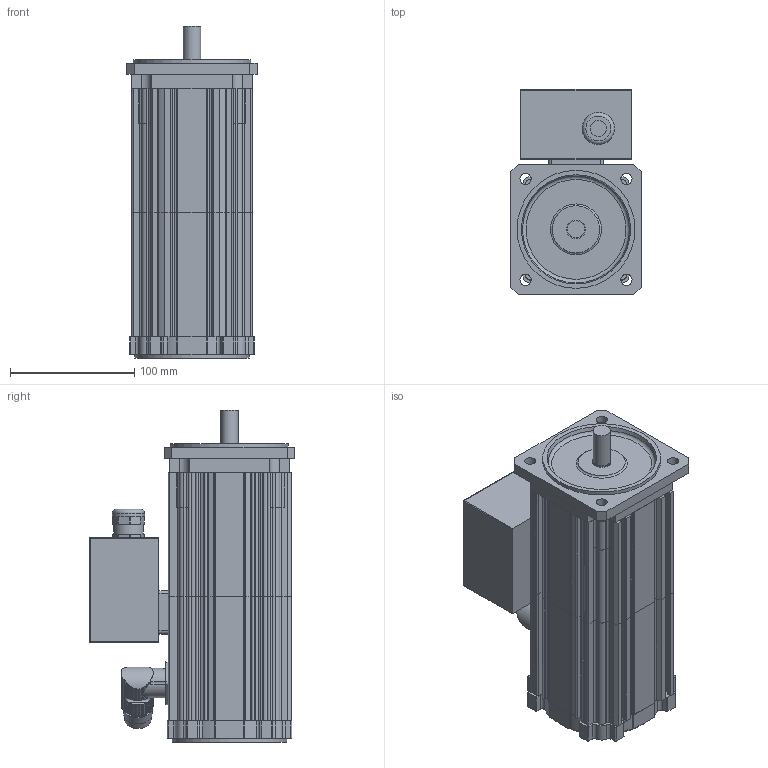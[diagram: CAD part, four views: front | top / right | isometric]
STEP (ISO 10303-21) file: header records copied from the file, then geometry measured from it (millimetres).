
FILE_DESCRIPTION(/* description */ (''),/* implementation_level */ '2;1');
FILE_NAME(/* name */ 'KSA446_Ix',/* time_stamp */ '2009-02-26T13:48:22+01:00',/* author */ (''),/* organization */ (''),/* preprocessor_version */ 'ST-DEVELOPER v8',/* originating_system */ 'UNIGRAPHICS SOLUTIONS - UNIGRAPHICS 18.0',/* authorisation */ '');
FILE_SCHEMA (('AUTOMOTIVE_DESIGN { 1 2 10303 214 0 1 1 1 }'));
Length unit declared in the file: millimetre
Products named in the file (7): 0280391350_0; Lagersch4AS_0; Winkelflanschdose_0; Lagersch4BS_0; 089105X_0; Klemmenkasten_0; KSA444_I27_0
Assembly tree (6 placements, depth 3):
  KSA444_I27_0
    089105X_0
    Lagersch4BS_0
    Klemmenkasten_0
      0280391350_0
    Winkelflanschdose_0
    Lagersch4AS_0
Bounding box: 105 x 165.35 x 267.5 mm (x, y, z)
Volume: 1394529.2 mm3; surface area: 359073.5 mm2
Topology: 7 solids, 7 shells, 748 faces, 2115 edges, 1399 vertices
Faces by surface type: cylinder 424, plane 290, torus 12, cone 10, bspline 8, sphere 4
Full cylindrical faces by diameter (mm): 9 x4, 13 x1, 14 x1, 15 x1, 16 x1, 18 x1, 20 x2, 21 x1, 21.5 x1, 23 x2, 24 x1, 26 x1, 89.6 x2, 91 x1, 95 x1
Entity records: 24949 total; most frequent: CARTESIAN_POINT 5174, DIRECTION 4142, ORIENTED_EDGE 4138, EDGE_CURVE 2069, AXIS2_PLACEMENT_3D 1522, VERTEX_POINT 1388, LINE 1098, VECTOR 1098
